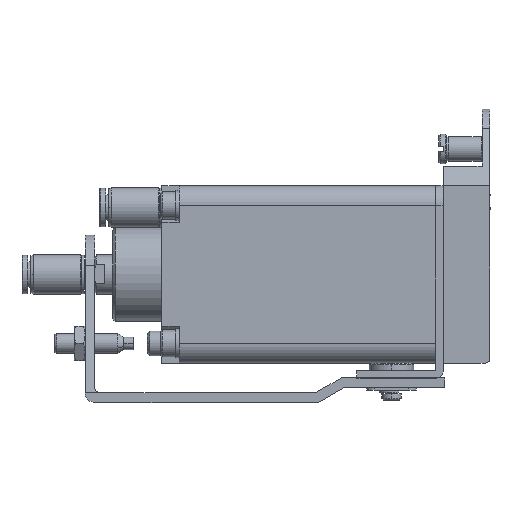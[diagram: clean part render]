
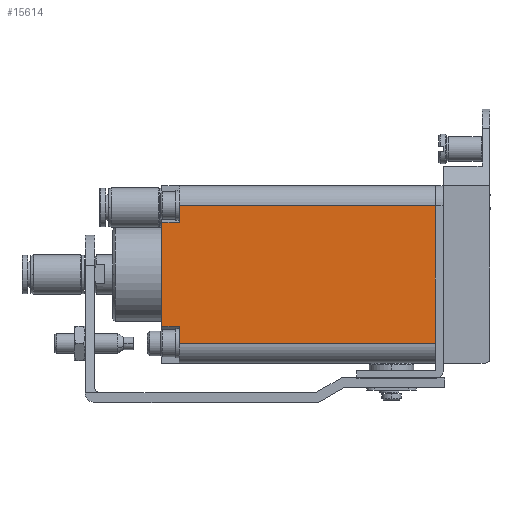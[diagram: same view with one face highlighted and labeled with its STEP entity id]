
A CAD part, left-side view. The second image highlights one B-rep face of the part: STEP entity #15614.
In plain terms, the highlighted planar face has unit normal (-1, 0, 0).
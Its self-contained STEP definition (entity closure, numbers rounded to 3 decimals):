
#1194 = VECTOR ( 'NONE', #28232, 1000. ) ;
#1680 = ORIENTED_EDGE ( 'NONE', *, *, #8378, .T. ) ;
#2398 = VECTOR ( 'NONE', #23357, 1000. ) ;
#3166 = LINE ( 'NONE', #18359, #2398 ) ;
#3453 = LINE ( 'NONE', #27726, #9363 ) ;
#3701 = CARTESIAN_POINT ( 'NONE',  ( -14., 0., 0. ) ) ;
#4034 = EDGE_CURVE ( 'NONE', #29080, #23412, #22770, .T. ) ;
#4312 = LINE ( 'NONE', #19351, #29656 ) ;
#4659 = VECTOR ( 'NONE', #9316, 1000. ) ;
#5546 = ORIENTED_EDGE ( 'NONE', *, *, #23116, .T. ) ;
#5840 = CARTESIAN_POINT ( 'NONE',  ( -14., 0., 14. ) ) ;
#6012 = VERTEX_POINT ( 'NONE', #23764 ) ;
#6164 = DIRECTION ( 'NONE',  ( 0., -1., 0. ) ) ;
#6501 = VECTOR ( 'NONE', #17032, 1000. ) ;
#6766 = VERTEX_POINT ( 'NONE', #28437 ) ;
#6977 = ORIENTED_EDGE ( 'NONE', *, *, #9846, .T. ) ;
#7642 = EDGE_CURVE ( 'NONE', #6012, #6766, #15423, .T. ) ;
#7891 = EDGE_CURVE ( 'NONE', #6766, #31946, #4312, .T. ) ;
#8131 = DIRECTION ( 'NONE',  ( -1., 0., 0. ) ) ;
#8147 = FACE_OUTER_BOUND ( 'NONE', #26022, .T. ) ;
#8378 = EDGE_CURVE ( 'NONE', #13099, #26314, #14158, .T. ) ;
#8685 = CARTESIAN_POINT ( 'NONE',  ( -14., 55.5, -10.5 ) ) ;
#9049 = DIRECTION ( 'NONE',  ( 0., 1., 0. ) ) ;
#9316 = DIRECTION ( 'NONE',  ( 0., -1., 0. ) ) ;
#9363 = VECTOR ( 'NONE', #12548, 1000. ) ;
#9647 = ORIENTED_EDGE ( 'NONE', *, *, #18459, .F. ) ;
#9846 = EDGE_CURVE ( 'NONE', #31946, #13099, #3166, .T. ) ;
#10443 = AXIS2_PLACEMENT_3D ( 'NONE', #23312, #8131, #25877 ) ;
#10725 = ORIENTED_EDGE ( 'NONE', *, *, #26789, .T. ) ;
#11958 = CARTESIAN_POINT ( 'NONE',  ( -14., 52., 0. ) ) ;
#12069 = CARTESIAN_POINT ( 'NONE',  ( -14., 0., -14. ) ) ;
#12548 = DIRECTION ( 'NONE',  ( 0., -1., 0. ) ) ;
#13099 = VERTEX_POINT ( 'NONE', #8685 ) ;
#13109 = CARTESIAN_POINT ( 'NONE',  ( -14., 52., -10.5 ) ) ;
#14158 = LINE ( 'NONE', #18795, #20889 ) ;
#15423 = LINE ( 'NONE', #25724, #1194 ) ;
#15614 = ADVANCED_FACE ( 'NONE', ( #8147 ), #28298, .T. ) ;
#17032 = DIRECTION ( 'NONE',  ( 0., 0., -1. ) ) ;
#18359 = CARTESIAN_POINT ( 'NONE',  ( -14., 55.5, 0. ) ) ;
#18459 = EDGE_CURVE ( 'NONE', #6012, #23412, #30801, .T. ) ;
#18795 = CARTESIAN_POINT ( 'NONE',  ( -14., 50.5, -10.5 ) ) ;
#19351 = CARTESIAN_POINT ( 'NONE',  ( -14., 50.5, 10.5 ) ) ;
#19505 = VERTEX_POINT ( 'NONE', #22436 ) ;
#20889 = VECTOR ( 'NONE', #6164, 1000. ) ;
#22436 = CARTESIAN_POINT ( 'NONE',  ( -14., 52., -14. ) ) ;
#22770 = LINE ( 'NONE', #3701, #28726 ) ;
#23116 = EDGE_CURVE ( 'NONE', #26314, #19505, #32662, .T. ) ;
#23312 = CARTESIAN_POINT ( 'NONE',  ( -14., -4.55, -16.8 ) ) ;
#23357 = DIRECTION ( 'NONE',  ( 0., 0., -1. ) ) ;
#23412 = VERTEX_POINT ( 'NONE', #5840 ) ;
#23764 = CARTESIAN_POINT ( 'NONE',  ( -14., 52., 14. ) ) ;
#23976 = DIRECTION ( 'NONE',  ( 0., 0., 1. ) ) ;
#24091 = ORIENTED_EDGE ( 'NONE', *, *, #7642, .T. ) ;
#25321 = CARTESIAN_POINT ( 'NONE',  ( -14., 55.5, 10.5 ) ) ;
#25724 = CARTESIAN_POINT ( 'NONE',  ( -14., 52., 0. ) ) ;
#25877 = DIRECTION ( 'NONE',  ( 0., 0., 1. ) ) ;
#26022 = EDGE_LOOP ( 'NONE', ( #26988, #9647, #24091, #32232, #6977, #1680, #5546, #10725 ) ) ;
#26314 = VERTEX_POINT ( 'NONE', #13109 ) ;
#26789 = EDGE_CURVE ( 'NONE', #19505, #29080, #3453, .T. ) ;
#26988 = ORIENTED_EDGE ( 'NONE', *, *, #4034, .T. ) ;
#27074 = CARTESIAN_POINT ( 'NONE',  ( -14., 22.75, 14. ) ) ;
#27726 = CARTESIAN_POINT ( 'NONE',  ( -14., 22.75, -14. ) ) ;
#28232 = DIRECTION ( 'NONE',  ( 0., 0., -1. ) ) ;
#28298 = PLANE ( 'NONE',  #10443 ) ;
#28437 = CARTESIAN_POINT ( 'NONE',  ( -14., 52., 10.5 ) ) ;
#28726 = VECTOR ( 'NONE', #23976, 1000. ) ;
#29080 = VERTEX_POINT ( 'NONE', #12069 ) ;
#29656 = VECTOR ( 'NONE', #9049, 1000. ) ;
#30801 = LINE ( 'NONE', #27074, #4659 ) ;
#31946 = VERTEX_POINT ( 'NONE', #25321 ) ;
#32232 = ORIENTED_EDGE ( 'NONE', *, *, #7891, .T. ) ;
#32662 = LINE ( 'NONE', #11958, #6501 ) ;
